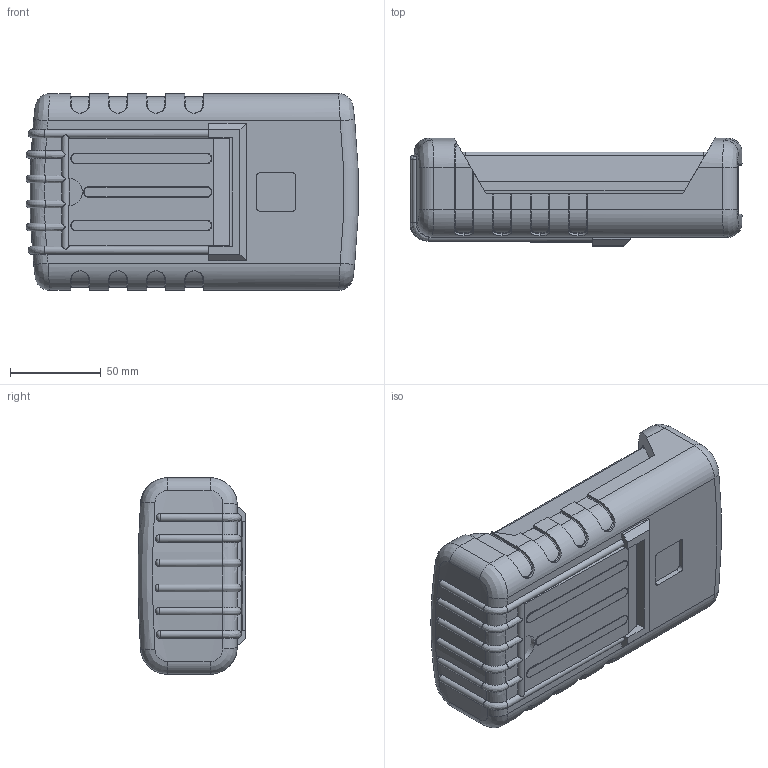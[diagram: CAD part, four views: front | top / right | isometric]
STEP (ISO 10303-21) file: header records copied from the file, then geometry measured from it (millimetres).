
FILE_DESCRIPTION (( 'STEP AP214' ), '1' );
FILE_NAME ('91-43-3A-E-R.STEP', '2020-10-19T16:54:21', ( 'Rudy' ), ( '' ), 'SwSTEP 2.0', 'SolidWorks 2014', '' );
FILE_SCHEMA (( 'AUTOMOTIVE_DESIGN' ));
Length unit declared in the file: millimetre
Products named in the file (9): 90 RBE Boot; RE 90 stand; 90 PCB 3AA; 3AAdoor; 91 LCD Top; 90 LCD Expander; 90-3AA Deep; 91-43-3A-E-R
Assembly tree (8 placements, depth 3):
  91-43-3A-E-R
    90-3AA Deep
    90 LCD Expander
    91 LCD Top
    3AAdoor
    90 PCB 3AA
    90 RBE Boot
      90 RBE Boot
      RE 90 stand
Bounding box: 183.26 x 59.56 x 108.46 mm (x, y, z)
Volume: 408177.6 mm3; surface area: 217146.7 mm2
Topology: 7 solids, 7 shells, 1240 faces, 3316 edges, 2118 vertices
Faces by surface type: plane 688, cylinder 328, bspline 76, cone 68, torus 65, sphere 15
Entity records: 45377 total; most frequent: CARTESIAN_POINT 14510, ORIENTED_EDGE 6588, DIRECTION 6131, EDGE_CURVE 3294, LINE 2111, VECTOR 2111, VERTEX_POINT 2110, AXIS2_PLACEMENT_3D 2010
